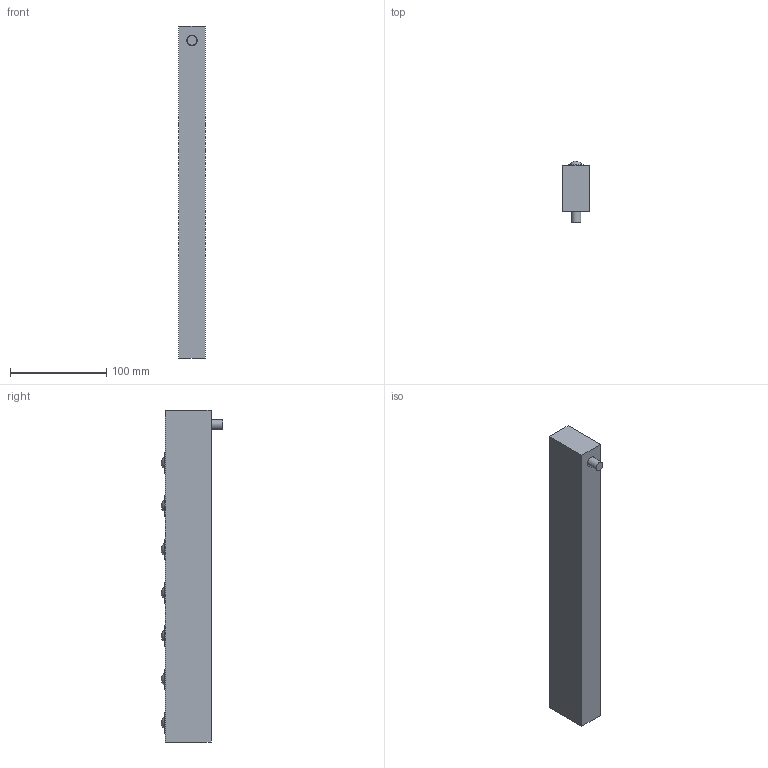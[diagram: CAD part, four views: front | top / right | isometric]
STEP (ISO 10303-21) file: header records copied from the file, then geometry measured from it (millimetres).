
FILE_DESCRIPTION(/* description */ (''),/* implementation_level */ '2;1');
FILE_NAME(/* name */ 'V:\Shrinkwrap\EMB\EMB - SHRINKWRAP\EMP28\EMB28-7_Shrinkwrap_1.stp',/* time_stamp */ '2022-08-12T11:19:59+02:00',/* author */ ('cw'),/* organization */ (''),/* preprocessor_version */ 'ST-DEVELOPER v17',/* originating_system */ 'Autodesk Inventor 2019',/* authorisation */ '');
FILE_SCHEMA (('AUTOMOTIVE_DESIGN { 1 0 10303 214 3 1 1 }'));
Length unit declared in the file: millimetre
Products named in the file (1): EMB28-7_Shrinkwrap_1
Bounding box: 27.8 x 64.05 x 345 mm (x, y, z)
Volume: 455913.3 mm3; surface area: 58977.8 mm2
Topology: 1 solids, 1 shells, 35 faces, 67 edges, 54 vertices
Faces by surface type: plane 17, cylinder 11, sphere 7
Full cylindrical faces by diameter (mm): 10 x1, 11 x1, 16 x1, 18 x1, 21.5 x7
Entity records: 1041 total; most frequent: DIRECTION 179, CARTESIAN_POINT 155, ORIENTED_EDGE 130, AXIS2_PLACEMENT_3D 78, EDGE_CURVE 65, EDGE_LOOP 53, VERTEX_POINT 50, CIRCLE 42
